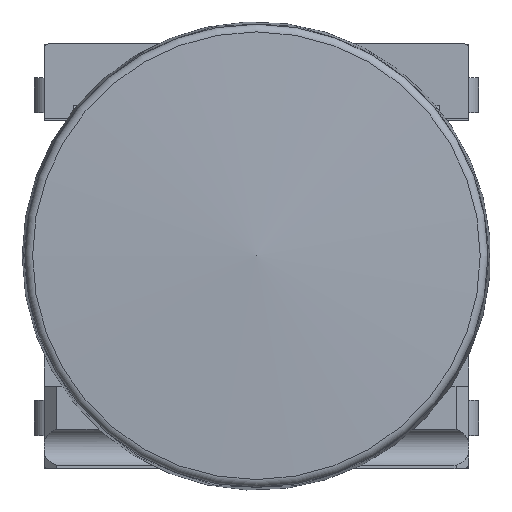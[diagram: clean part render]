
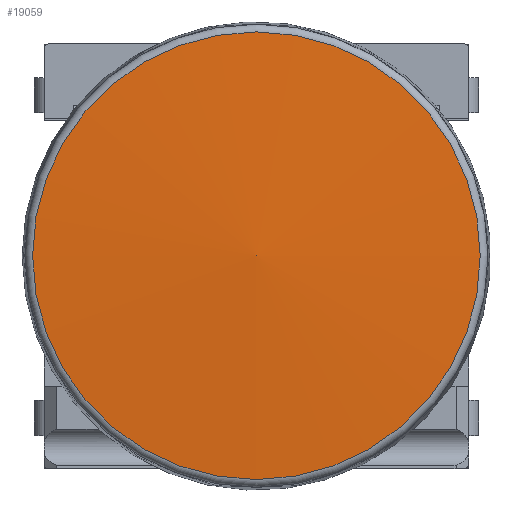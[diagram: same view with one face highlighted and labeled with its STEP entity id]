
A CAD part, top view. The second image highlights one B-rep face of the part: STEP entity #19059.
In plain terms, the highlighted spherical face has radius 60 mm.
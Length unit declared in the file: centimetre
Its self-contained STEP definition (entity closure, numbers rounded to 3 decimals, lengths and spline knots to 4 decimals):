
#12=SPHERICAL_SURFACE($,#20131,6.);
#5254=FACE_OUTER_BOUND($,#6237,.T.);
#6237=EDGE_LOOP($,(#13027));
#7273=CIRCLE($,#20132,0.5271);
#7901=VERTEX_POINT($,#28829);
#9881=EDGE_CURVE($,#7901,#7901,#7273,.T.);
#13027=ORIENTED_EDGE($,*,*,#9881,.T.);
#19059=ADVANCED_FACE($,(#5254),#12,.T.);
#20131=AXIS2_PLACEMENT_3D($,#28828,#21889,#21890);
#20132=AXIS2_PLACEMENT_3D($,#28830,#21891,#21892);
#21889=DIRECTION('center_axis',(0.,0.,
-1.));
#21890=DIRECTION('ref_axis',(0.,-1.,0.));
#21891=DIRECTION('center_axis',(0.,0.,
1.));
#21892=DIRECTION('ref_axis',(1.,0.,0.));
#28828=CARTESIAN_POINT('Origin',(0.,0.,
-5.149));
#28829=CARTESIAN_POINT('',(-0.5271,0.,0.8278));
#28830=CARTESIAN_POINT('Origin',(0.,0.,
0.8278));
